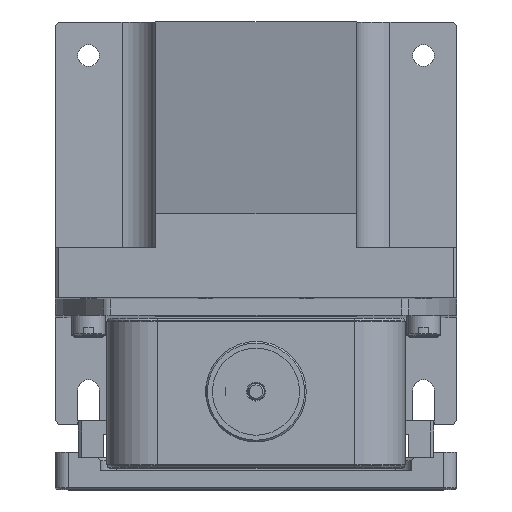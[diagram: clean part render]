
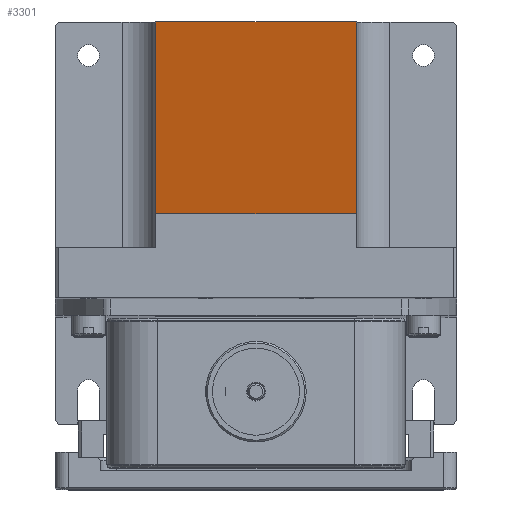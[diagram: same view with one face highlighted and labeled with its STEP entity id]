
A CAD part, top view. The second image highlights one B-rep face of the part: STEP entity #3301.
In plain terms, the highlighted planar face has unit normal (0, 0.995, 0.098).
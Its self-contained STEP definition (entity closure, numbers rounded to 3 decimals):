
#123=CARTESIAN_POINT('',(-30.0,60.,25.0));
#124=VERTEX_POINT('',#123);
#223=CARTESIAN_POINT('',(30.0,60.,25.0));
#224=VERTEX_POINT('',#223);
#415=CARTESIAN_POINT('',(30.0,1.7,620.0));
#416=VERTEX_POINT('',#415);
#417=CARTESIAN_POINT('',(30.0,1.7,620.0));
#418=DIRECTION('',(0.0,0.098,-0.995));
#419=VECTOR('',#418,597.849);
#420=LINE('',#417,#419);
#421=EDGE_CURVE('',#416,#224,#420,.T.);
#1261=CARTESIAN_POINT('',(-30.0,60.,25.0));
#1262=DIRECTION('',(1.0,0.0,0.0));
#1263=VECTOR('',#1262,60.0);
#1264=LINE('',#1261,#1263);
#1265=EDGE_CURVE('',#124,#224,#1264,.T.);
#3268=CARTESIAN_POINT('',(-30.0,1.7,620.0));
#3269=VERTEX_POINT('',#3268);
#3276=CARTESIAN_POINT('',(-30.0,60.,25.0));
#3277=DIRECTION('',(0.0,-0.098,0.995));
#3278=VECTOR('',#3277,597.849);
#3279=LINE('',#3276,#3278);
#3280=EDGE_CURVE('',#124,#3269,#3279,.T.);
#3285=CARTESIAN_POINT('',(0.0,1.7,620.0));
#3286=DIRECTION('',(0.0,0.995,0.098));
#3287=DIRECTION('',(0.0,-0.098,0.995));
#3288=AXIS2_PLACEMENT_3D('',#3285,#3286,#3287);
#3289=PLANE('',#3288);
#3290=ORIENTED_EDGE('',*,*,#421,.T.);
#3291=ORIENTED_EDGE('',*,*,#1265,.F.);
#3292=ORIENTED_EDGE('',*,*,#3280,.T.);
#3293=CARTESIAN_POINT('',(-30.0,1.7,620.0));
#3294=DIRECTION('',(1.0,0.0,0.0));
#3295=VECTOR('',#3294,60.0);
#3296=LINE('',#3293,#3295);
#3297=EDGE_CURVE('',#3269,#416,#3296,.T.);
#3298=ORIENTED_EDGE('',*,*,#3297,.T.);
#3299=EDGE_LOOP('',(#3290,#3291,#3292,#3298));
#3300=FACE_OUTER_BOUND('',#3299,.T.);
#3301=ADVANCED_FACE('',(#3300),#3289,.T.);
